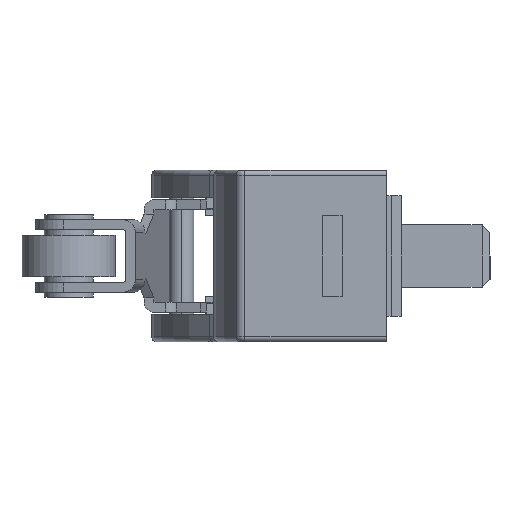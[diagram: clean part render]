
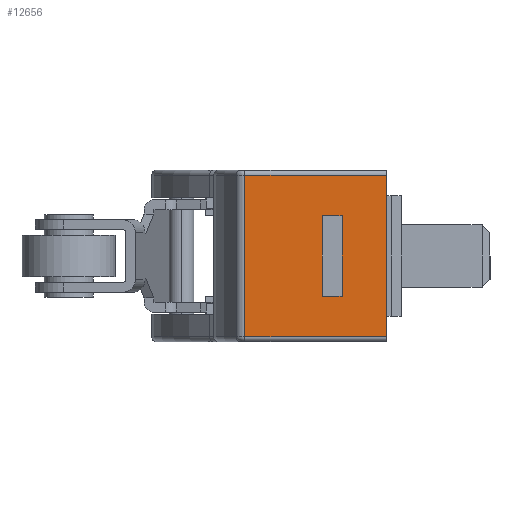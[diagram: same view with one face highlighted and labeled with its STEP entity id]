
A CAD part, left-side view. The second image highlights one B-rep face of the part: STEP entity #12656.
In plain terms, the highlighted planar face has unit normal (-1, 0, 0).
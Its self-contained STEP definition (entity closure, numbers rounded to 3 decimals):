
#6668 = DIRECTION ( 'NONE',  ( 0., 0., 1. ) ) ;
#6669 = VECTOR ( 'NONE', #6668, 1000. ) ;
#6670 = CARTESIAN_POINT ( 'NONE',  ( -35.2, 2.7, 4.1 ) ) ;
#6671 = LINE ( 'NONE', #6670, #6669 ) ;
#6673 = CARTESIAN_POINT ( 'NONE',  ( -35.2, 2.7, -4.1 ) ) ;
#6674 = DIRECTION ( 'NONE',  ( 0., 1., 0. ) ) ;
#6675 = VECTOR ( 'NONE', #6674, 1000. ) ;
#6676 = CARTESIAN_POINT ( 'NONE',  ( -35.2, 2.7, -4.1 ) ) ;
#6677 = LINE ( 'NONE', #6676, #6675 ) ;
#6705 = DIRECTION ( 'NONE',  ( 0., 0., -1. ) ) ;
#6706 = DIRECTION ( 'NONE',  ( 1., 0., 0. ) ) ;
#6707 = CARTESIAN_POINT ( 'NONE',  ( -35.2, 10.561, 8.7 ) ) ;
#6709 = AXIS2_PLACEMENT_3D ( 'NONE', #6707, #6706, #6705 ) ;
#6710 = PLANE ( 'NONE',  #6709 ) ;
#6711 = FACE_BOUND ( 'NONE', #12738, .T. ) ;
#6712 = FACE_OUTER_BOUND ( 'NONE', #12828, .T. ) ;
#6713 = DIRECTION ( 'NONE',  ( 0., 0., -1. ) ) ;
#6714 = VECTOR ( 'NONE', #6713, 1000. ) ;
#6715 = CARTESIAN_POINT ( 'NONE',  ( -35.2, -3.8, 8.7 ) ) ;
#6716 = LINE ( 'NONE', #6715, #6714 ) ;
#6730 = DIRECTION ( 'NONE',  ( 0., 0., -1. ) ) ;
#6731 = VECTOR ( 'NONE', #6730, 1000. ) ;
#6732 = CARTESIAN_POINT ( 'NONE',  ( -35.2, 10.561, 8.7 ) ) ;
#6750 = LINE ( 'NONE', #6732, #6731 ) ;
#6751 = CARTESIAN_POINT ( 'NONE',  ( -35.2, -3.8, -8.2 ) ) ;
#6752 = DIRECTION ( 'NONE',  ( 0., -1., 0. ) ) ;
#6753 = VECTOR ( 'NONE', #6752, 1000. ) ;
#6754 = CARTESIAN_POINT ( 'NONE',  ( -35.2, 10.561, -8.2 ) ) ;
#6755 = LINE ( 'NONE', #6754, #6753 ) ;
#6909 = CARTESIAN_POINT ( 'NONE',  ( -35.2, 0.7, 4.1 ) ) ;
#6910 = CARTESIAN_POINT ( 'NONE',  ( -35.2, 2.7, 4.1 ) ) ;
#6911 = DIRECTION ( 'NONE',  ( 0., -1., 0. ) ) ;
#6912 = VECTOR ( 'NONE', #6911, 1000. ) ;
#6913 = CARTESIAN_POINT ( 'NONE',  ( -35.2, 2.7, 4.1 ) ) ;
#6914 = LINE ( 'NONE', #6913, #6912 ) ;
#6915 = CARTESIAN_POINT ( 'NONE',  ( -35.2, 10.561, 8.2 ) ) ;
#6916 = VECTOR ( 'NONE', #7078, 1000. ) ;
#7052 = CARTESIAN_POINT ( 'NONE',  ( -35.2, 0.7, -4.1 ) ) ;
#7053 = DIRECTION ( 'NONE',  ( 0., 0., -1. ) ) ;
#7054 = VECTOR ( 'NONE', #7053, 1000. ) ;
#7055 = CARTESIAN_POINT ( 'NONE',  ( -35.2, 0.7, 4.1 ) ) ;
#7056 = LINE ( 'NONE', #7055, #7054 ) ;
#7078 = DIRECTION ( 'NONE',  ( 0., 1., 0. ) ) ;
#7079 = CARTESIAN_POINT ( 'NONE',  ( -35.2, 10.561, 8.2 ) ) ;
#7080 = LINE ( 'NONE', #7079, #6916 ) ;
#7081 = CARTESIAN_POINT ( 'NONE',  ( -35.2, -3.8, 8.2 ) ) ;
#7310 = CARTESIAN_POINT ( 'NONE',  ( -35.2, 10.561, -8.2 ) ) ;
#12643 = EDGE_CURVE ( 'NONE', #12952, #12645, #6755, .T. ) ;
#12644 = ORIENTED_EDGE ( 'NONE', *, *, #12654, .F. ) ;
#12645 = VERTEX_POINT ( 'NONE', #6751 ) ;
#12646 = EDGE_CURVE ( 'NONE', #12737, #12952, #6750, .T. ) ;
#12654 = EDGE_CURVE ( 'NONE', #12734, #12645, #6716, .T. ) ;
#12655 = ORIENTED_EDGE ( 'NONE', *, *, #12643, .T. ) ;
#12656 = ADVANCED_FACE ( 'NONE', ( #6712, #6711 ), #6710, .F. ) ;
#12667 = EDGE_CURVE ( 'NONE', #12745, #12668, #6677, .T. ) ;
#12668 = VERTEX_POINT ( 'NONE', #6673 ) ;
#12669 = ORIENTED_EDGE ( 'NONE', *, *, #12670, .T. ) ;
#12670 = EDGE_CURVE ( 'NONE', #12668, #12741, #6671, .T. ) ;
#12734 = VERTEX_POINT ( 'NONE', #7081 ) ;
#12735 = ORIENTED_EDGE ( 'NONE', *, *, #12736, .T. ) ;
#12736 = EDGE_CURVE ( 'NONE', #12734, #12737, #7080, .T. ) ;
#12737 = VERTEX_POINT ( 'NONE', #6915 ) ;
#12738 = EDGE_LOOP ( 'NONE', ( #12739, #12743, #12750, #12669 ) ) ;
#12739 = ORIENTED_EDGE ( 'NONE', *, *, #12740, .T. ) ;
#12740 = EDGE_CURVE ( 'NONE', #12741, #12742, #6914, .T. ) ;
#12741 = VERTEX_POINT ( 'NONE', #6910 ) ;
#12742 = VERTEX_POINT ( 'NONE', #6909 ) ;
#12743 = ORIENTED_EDGE ( 'NONE', *, *, #12744, .T. ) ;
#12744 = EDGE_CURVE ( 'NONE', #12742, #12745, #7056, .T. ) ;
#12745 = VERTEX_POINT ( 'NONE', #7052 ) ;
#12750 = ORIENTED_EDGE ( 'NONE', *, *, #12667, .T. ) ;
#12828 = EDGE_LOOP ( 'NONE', ( #12912, #12655, #12644, #12735 ) ) ;
#12912 = ORIENTED_EDGE ( 'NONE', *, *, #12646, .T. ) ;
#12952 = VERTEX_POINT ( 'NONE', #7310 ) ;
